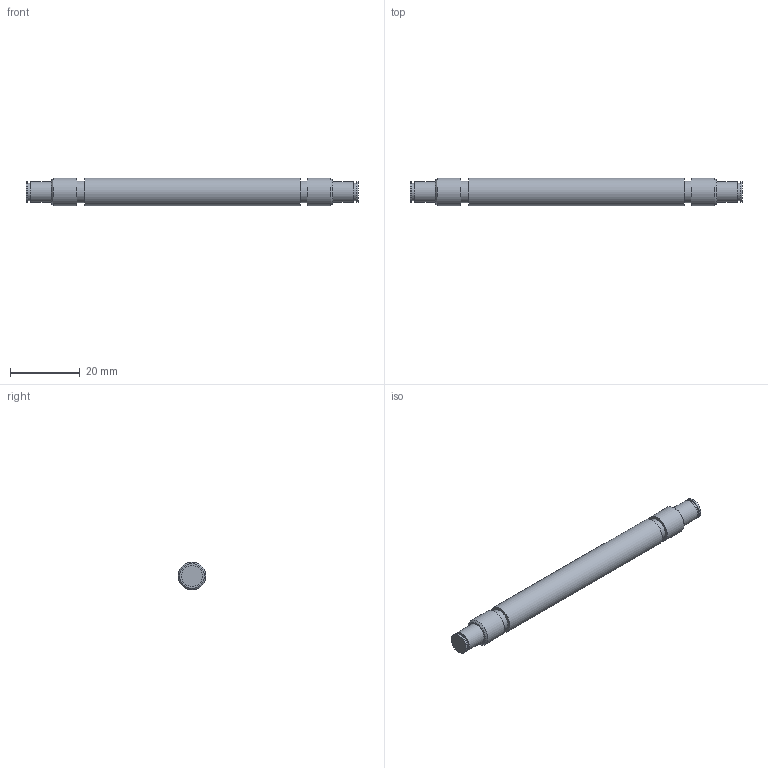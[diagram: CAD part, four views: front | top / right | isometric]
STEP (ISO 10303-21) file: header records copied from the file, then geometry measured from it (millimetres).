
FILE_DESCRIPTION(/* description */ ('Shaft '),/* implementation_level */ '2;1');
FILE_NAME(/* name */ 'Z:\Werkstatt Server\Projekte\Atlas\Entwicklung u. Konstruktion\Konstruktion\CAD Daten\ITkPixToolV2.0\Stencil Tool\Spatula\ITPTv2.03.01.02.stp',/* time_stamp */ '2021-08-06T14:07:49+02:00',/* author */ ('Tim Kanngießer'),/* organization */ (''),/* preprocessor_version */ 'ST-DEVELOPER v18.1',/* originating_system */ 'Autodesk Inventor 2022',/* authorisation */ '');
FILE_SCHEMA (('AUTOMOTIVE_DESIGN { 1 0 10303 214 3 1 1 }'));
Length unit declared in the file: millimetre
Products named in the file (1): ITPTv2.03.01.02
Bounding box: 95.2 x 8 x 8 mm (x, y, z)
Volume: 4364.2 mm3; surface area: 2469.5 mm2
Topology: 1 solids, 1 shells, 25 faces, 39 edges, 26 vertices
Faces by surface type: plane 12, cylinder 11, cone 2
Full cylindrical faces by diameter (mm): 5 x2, 6 x4, 6.3 x2, 8 x3
Entity records: 620 total; most frequent: DIRECTION 117, CARTESIAN_POINT 91, ORIENTED_EDGE 78, AXIS2_PLACEMENT_3D 52, EDGE_CURVE 39, EDGE_LOOP 35, CIRCLE 26, VERTEX_POINT 26
